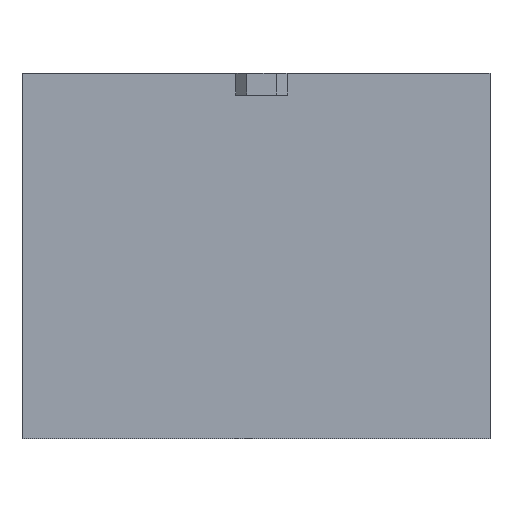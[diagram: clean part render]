
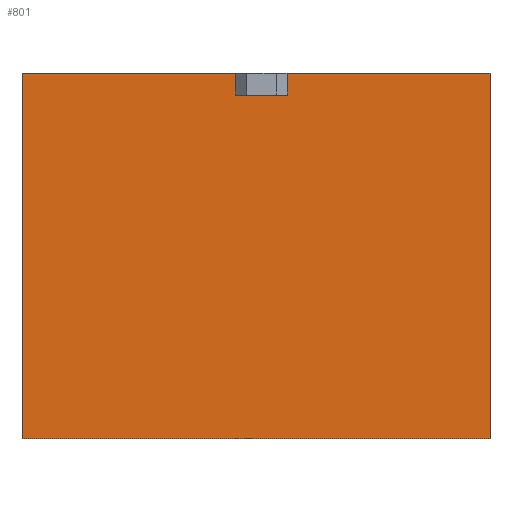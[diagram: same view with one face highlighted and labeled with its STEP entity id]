
A CAD part, front view. The second image highlights one B-rep face of the part: STEP entity #801.
In plain terms, the highlighted planar face has unit normal (0, -1, 0).
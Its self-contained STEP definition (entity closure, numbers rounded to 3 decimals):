
#72=FACE_OUTER_BOUND('',#112,.T.);
#112=EDGE_LOOP('',(#567,#568,#569,#570,#571,#572,#573,#574));
#175=LINE('',#1128,#268);
#191=LINE('',#1163,#284);
#194=LINE('',#1169,#287);
#195=LINE('',#1171,#288);
#196=LINE('',#1173,#289);
#197=LINE('',#1175,#290);
#198=LINE('',#1176,#291);
#199=LINE('',#1177,#292);
#268=VECTOR('',#915,10.);
#284=VECTOR('',#939,10.);
#287=VECTOR('',#944,10.);
#288=VECTOR('',#945,10.);
#289=VECTOR('',#946,10.);
#290=VECTOR('',#947,10.);
#291=VECTOR('',#948,10.);
#292=VECTOR('',#949,10.);
#358=VERTEX_POINT('',#1121);
#361=VERTEX_POINT('',#1126);
#375=VERTEX_POINT('',#1160);
#376=VERTEX_POINT('',#1162);
#378=VERTEX_POINT('',#1168);
#379=VERTEX_POINT('',#1170);
#380=VERTEX_POINT('',#1172);
#381=VERTEX_POINT('',#1174);
#435=EDGE_CURVE('',#361,#358,#175,.T.);
#451=EDGE_CURVE('',#375,#376,#191,.T.);
#454=EDGE_CURVE('',#378,#361,#194,.T.);
#455=EDGE_CURVE('',#378,#379,#195,.T.);
#456=EDGE_CURVE('',#379,#380,#196,.T.);
#457=EDGE_CURVE('',#381,#380,#197,.T.);
#458=EDGE_CURVE('',#376,#381,#198,.T.);
#459=EDGE_CURVE('',#375,#358,#199,.T.);
#567=ORIENTED_EDGE('',*,*,#435,.F.);
#568=ORIENTED_EDGE('',*,*,#454,.F.);
#569=ORIENTED_EDGE('',*,*,#455,.T.);
#570=ORIENTED_EDGE('',*,*,#456,.T.);
#571=ORIENTED_EDGE('',*,*,#457,.F.);
#572=ORIENTED_EDGE('',*,*,#458,.F.);
#573=ORIENTED_EDGE('',*,*,#451,.F.);
#574=ORIENTED_EDGE('',*,*,#459,.T.);
#770=PLANE('',#855);
#801=ADVANCED_FACE('',(#72),#770,.T.);
#855=AXIS2_PLACEMENT_3D('',#1167,#942,#943);
#915=DIRECTION('',(0.,0.,-1.));
#939=DIRECTION('',(0.,0.,1.));
#942=DIRECTION('center_axis',(0.,-1.,0.));
#943=DIRECTION('ref_axis',(0.,0.,-1.));
#944=DIRECTION('',(1.,0.,0.));
#945=DIRECTION('',(0.,0.,-1.));
#946=DIRECTION('',(1.,0.,0.));
#947=DIRECTION('',(0.,0.,-1.));
#948=DIRECTION('',(1.,0.,0.));
#949=DIRECTION('',(-1.,0.,0.));
#1121=CARTESIAN_POINT('',(58.5,0.,94.));
#1126=CARTESIAN_POINT('',(58.5,0.,100.));
#1128=CARTESIAN_POINT('',(58.5,0.,100.));
#1160=CARTESIAN_POINT('',(72.5,0.,94.));
#1162=CARTESIAN_POINT('',(72.5,0.,100.));
#1163=CARTESIAN_POINT('',(72.5,0.,100.));
#1167=CARTESIAN_POINT('Origin',(0.,0.,100.));
#1168=CARTESIAN_POINT('',(0.,0.,100.));
#1169=CARTESIAN_POINT('',(0.,0.,100.));
#1170=CARTESIAN_POINT('',(0.,0.,0.));
#1171=CARTESIAN_POINT('',(0.,0.,100.));
#1172=CARTESIAN_POINT('',(128.,0.,0.));
#1173=CARTESIAN_POINT('',(0.,0.,0.));
#1174=CARTESIAN_POINT('',(128.,0.,100.));
#1175=CARTESIAN_POINT('',(128.,0.,97.));
#1176=CARTESIAN_POINT('',(0.,0.,100.));
#1177=CARTESIAN_POINT('',(32.75,0.,94.));
